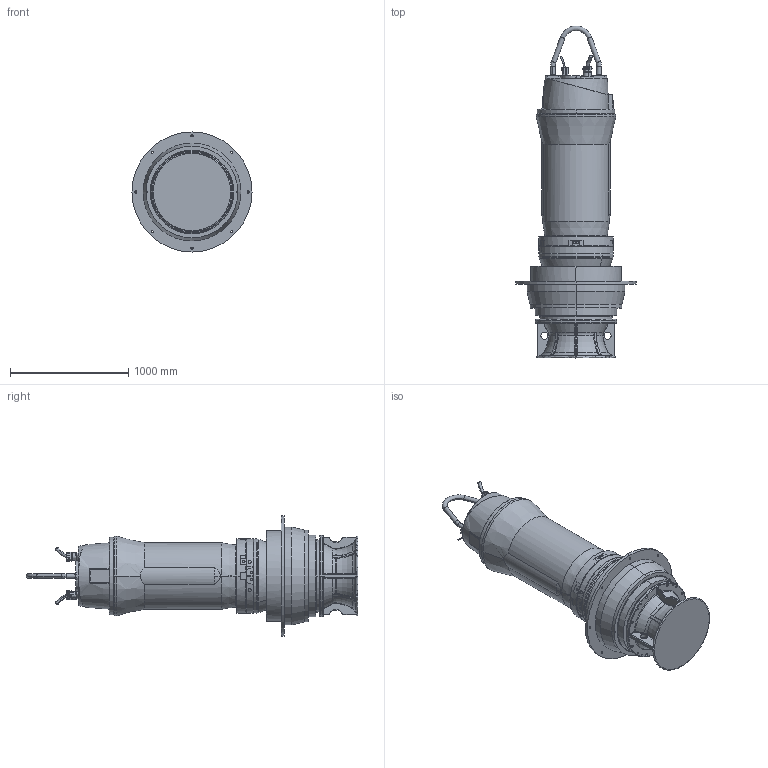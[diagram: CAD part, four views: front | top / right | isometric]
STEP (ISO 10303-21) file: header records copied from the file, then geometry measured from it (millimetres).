
FILE_DESCRIPTION (( 'STEP AP214' ), '1' );
FILE_NAME ('PE6_AFLX0800_FU_C_NG2.STEP', '2017-04-20T07:47:42', ( '' ), ( '' ), 'SwSTEP 2.0', 'SolidWorks 2017', '' );
FILE_SCHEMA (( 'AUTOMOTIVE_DESIGN' ));
Length unit declared in the file: millimetre
Products named in the file (1): PE6_AFLX0800_FU_C_NG2
Bounding box: 1015 x 2805.9 x 1015 mm (x, y, z)
Volume: 707778046.8 mm3; surface area: 8305545.3 mm2
Topology: 4 solids, 22 shells, 2130 faces, 5166 edges, 3064 vertices
Faces by surface type: plane 632, cylinder 520, bspline 399, cone 264, torus 238, sphere 77
Entity records: 108239 total; most frequent: CARTESIAN_POINT 38077, ORIENTED_EDGE 10148, DIRECTION 9147, EDGE_CURVE 5074, AXIS2_PLACEMENT_3D 3640, VERTEX_POINT 3063, EDGE_LOOP 2317, UNCERTAINTY_MEASURE_WITH_UNIT 2136
